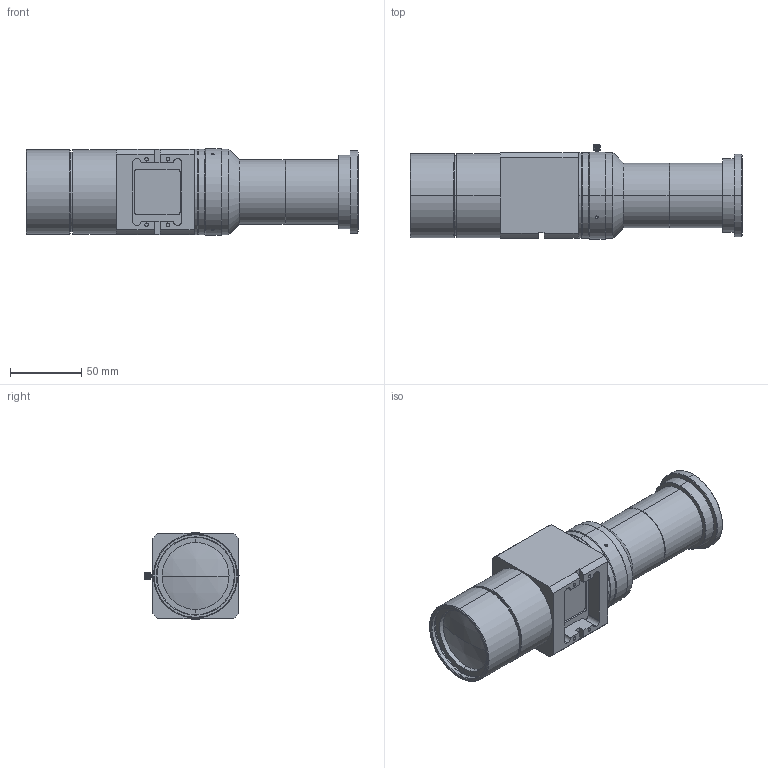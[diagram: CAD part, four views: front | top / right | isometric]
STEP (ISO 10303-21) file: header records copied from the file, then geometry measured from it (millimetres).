
FILE_DESCRIPTION (( 'STEP AP203' ), '1' );
FILE_NAME ('VS-LTC3.5-80CO-45_S.STEP', '2023-05-11T05:37:25', ( '' ), ( '' ), 'SwSTEP 2.0', 'SolidWorks 2021', '' );
FILE_SCHEMA (( 'CONFIG_CONTROL_DESIGN' ));
Length unit declared in the file: millimetre
Products named in the file (3): LS02005_ロックビス(F用); VS-LTC3.5-80CO-45_S
Assembly tree (2 placements, depth 2):
  VS-LTC3.5-80CO-45_S
    VS-LTC3.5-80CO-45_S
    LS02005_ロックビス(F用)
Bounding box: 233.01 x 66 x 61 mm (x, y, z)
Volume: 522177.7 mm3; surface area: 60233.9 mm2
Topology: 2 solids, 2 shells, 259 faces, 629 edges, 398 vertices
Faces by surface type: cylinder 101, plane 98, cone 56, sphere 4
Entity records: 8074 total; most frequent: CARTESIAN_POINT 1699, DIRECTION 1297, ORIENTED_EDGE 1258, EDGE_CURVE 629, AXIS2_PLACEMENT_3D 514, VERTEX_POINT 398, EDGE_LOOP 283, VECTOR 269
